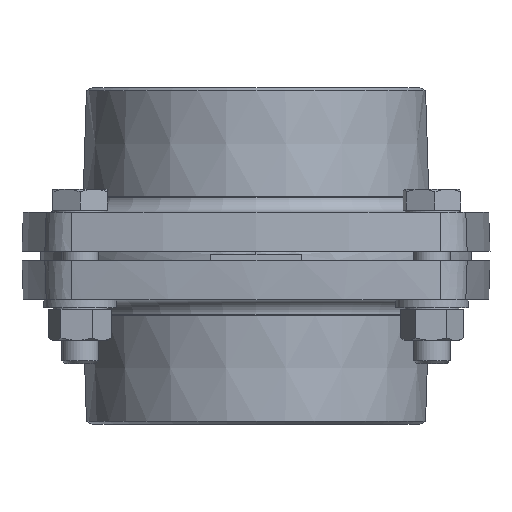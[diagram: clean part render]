
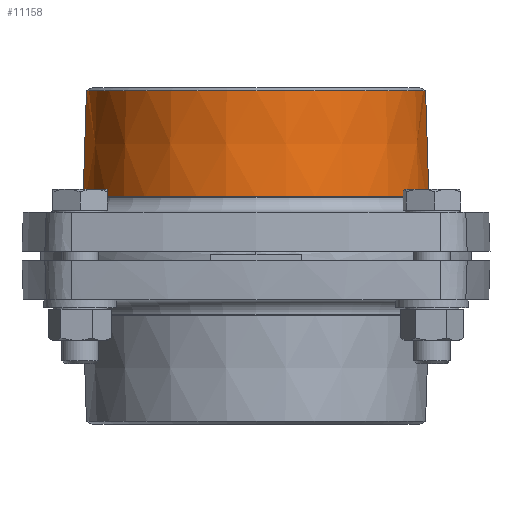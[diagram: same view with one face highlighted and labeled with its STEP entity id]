
A CAD part, front view. The second image highlights one B-rep face of the part: STEP entity #11158.
In plain terms, the highlighted conical face has half-angle 1.788 degrees and reference radius 56.991 mm.
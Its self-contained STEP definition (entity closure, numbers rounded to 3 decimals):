
#41 = ORIENTED_EDGE ( 'NONE', *, *, #454, .T. ) ;
#454 = EDGE_CURVE ( 'NONE', #881, #2126, #8181, .T. ) ;
#513 = CARTESIAN_POINT ( 'NONE',  ( -84.801, 14.557, -4.215 ) ) ;
#602 = CARTESIAN_POINT ( 'NONE',  ( -27.81, 14.557, -4.215 ) ) ;
#803 = VERTEX_POINT ( 'NONE', #5178 ) ;
#838 = AXIS2_PLACEMENT_3D ( 'NONE', #602, #8668, #1876 ) ;
#881 = VERTEX_POINT ( 'NONE', #11213 ) ;
#1546 = DIRECTION ( 'NONE',  ( 0., 0., -1. ) ) ;
#1662 = AXIS2_PLACEMENT_3D ( 'NONE', #7154, #7766, #7548 ) ;
#1780 = VERTEX_POINT ( 'NONE', #9173 ) ;
#1834 = EDGE_CURVE ( 'NONE', #803, #2126, #8239, .T. ) ;
#1876 = DIRECTION ( 'NONE',  ( -1., 0., 0. ) ) ;
#2126 = VERTEX_POINT ( 'NONE', #513 ) ;
#2279 = CARTESIAN_POINT ( 'NONE',  ( -84.801, 14.557, -4.215 ) ) ;
#2377 = CONICAL_SURFACE ( 'NONE', #838, 56.991, 0.031 ) ;
#2462 = VECTOR ( 'NONE', #3041, 1000. ) ;
#2747 = LINE ( 'NONE', #3780, #2462 ) ;
#3041 = DIRECTION ( 'NONE',  ( 0.031, 0., -1. ) ) ;
#3166 = EDGE_CURVE ( 'NONE', #1780, #803, #2747, .T. ) ;
#3169 = DIRECTION ( 'NONE',  ( -0.031, 0., -1. ) ) ;
#3780 = CARTESIAN_POINT ( 'NONE',  ( 29.181, 14.557, -4.215 ) ) ;
#4160 = ORIENTED_EDGE ( 'NONE', *, *, #3166, .F. ) ;
#4406 = AXIS2_PLACEMENT_3D ( 'NONE', #6860, #1546, #7782 ) ;
#5178 = CARTESIAN_POINT ( 'NONE',  ( 29.181, 14.557, -4.215 ) ) ;
#5353 = CIRCLE ( 'NONE', #4406, 55.898 ) ;
#6509 = ORIENTED_EDGE ( 'NONE', *, *, #1834, .F. ) ;
#6860 = CARTESIAN_POINT ( 'NONE',  ( -27.81, 14.557, 30.786 ) ) ;
#7154 = CARTESIAN_POINT ( 'NONE',  ( -27.81, 14.557, -4.215 ) ) ;
#7213 = ORIENTED_EDGE ( 'NONE', *, *, #9977, .T. ) ;
#7548 = DIRECTION ( 'NONE',  ( -1., 0., 0. ) ) ;
#7766 = DIRECTION ( 'NONE',  ( 0., 0., -1. ) ) ;
#7782 = DIRECTION ( 'NONE',  ( 1., 0., 0. ) ) ;
#8181 = LINE ( 'NONE', #2279, #10269 ) ;
#8239 = CIRCLE ( 'NONE', #1662, 56.991 ) ;
#8668 = DIRECTION ( 'NONE',  ( 0., 0., -1. ) ) ;
#9173 = CARTESIAN_POINT ( 'NONE',  ( 28.088, 14.557, 30.786 ) ) ;
#9977 = EDGE_CURVE ( 'NONE', #1780, #881, #5353, .T. ) ;
#10269 = VECTOR ( 'NONE', #3169, 1000. ) ;
#10640 = FACE_OUTER_BOUND ( 'NONE', #11226, .T. ) ;
#11158 = ADVANCED_FACE ( 'NONE', ( #10640 ), #2377, .T. ) ;
#11213 = CARTESIAN_POINT ( 'NONE',  ( -83.708, 14.557, 30.786 ) ) ;
#11226 = EDGE_LOOP ( 'NONE', ( #4160, #7213, #41, #6509 ) ) ;
